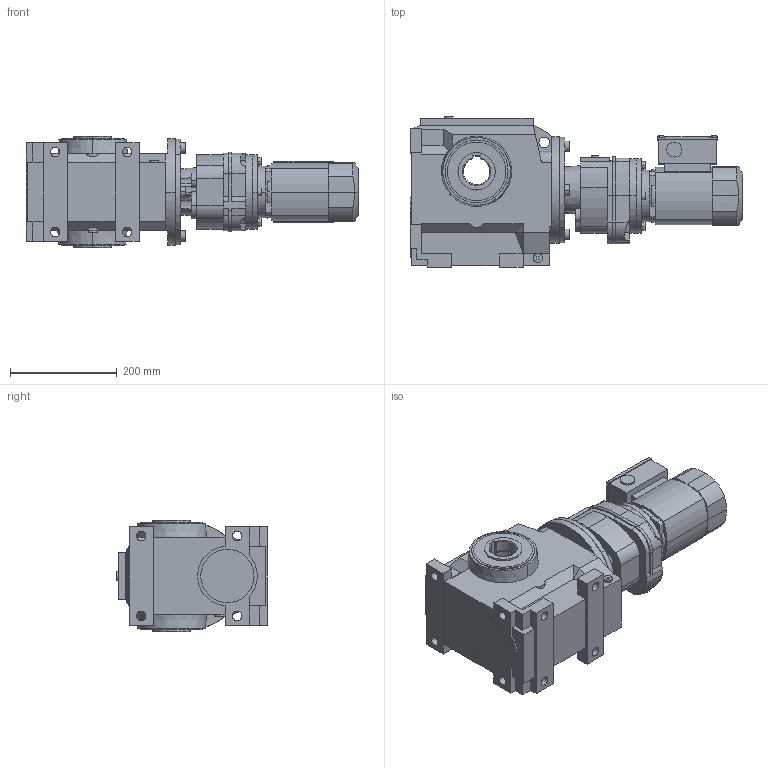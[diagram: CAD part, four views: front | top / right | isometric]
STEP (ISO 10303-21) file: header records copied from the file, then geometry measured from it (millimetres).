
FILE_DESCRIPTION(('STEP AP214'),'1');
FILE_NAME('STEP-File.stp','2018-01-01T00:00:00',(' '),('KEB'),' ','KEB-DRIVE',' ');
FILE_SCHEMA(('AUTOMOTIVE_DESIGN { 1 0 10303 214 1 1 1 1 }'));
Length unit declared in the file: millimetre
Products named in the file (12): s4a; we_hw_50; weh_slno; fp2-c4; g2b; cj2; dm63_kkn; kk08; PLUG_M25; ndm63; S42G22A DM63G4§CAD13
Assembly tree (11 placements, depth 2):
  S42G22A DM63G4§CAD13
    s4a
    we_hw_50
    weh_slno
    weh_slno
    fp2-c4
    g2b
    cj2
    dm63_kkn
    kk08
    PLUG_M25
    ndm63
Bounding box: 623 x 283 x 210 mm (x, y, z)
Volume: 15855365.5 mm3; surface area: 919848.5 mm2
Topology: 11 solids, 11 shells, 511 faces, 1366 edges, 955 vertices
Faces by surface type: plane 308, cylinder 139, cone 62, torus 2
Entity records: 18023 total; most frequent: CARTESIAN_POINT 5461, ORIENTED_EDGE 2732, DIRECTION 2192, EDGE_CURVE 1366, VERTEX_POINT 955, VECTOR 878, LINE 878, AXIS2_PLACEMENT_3D 657
